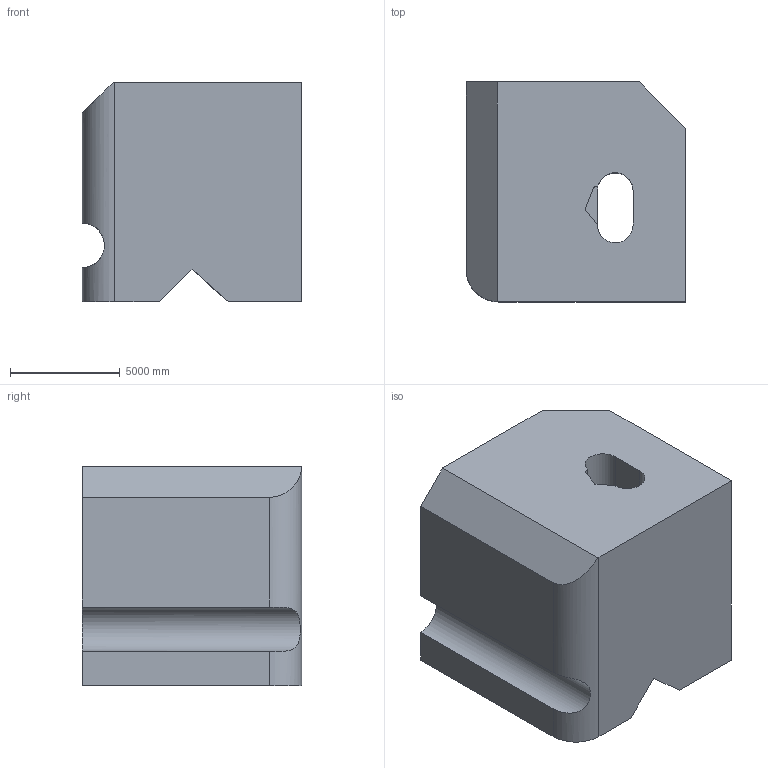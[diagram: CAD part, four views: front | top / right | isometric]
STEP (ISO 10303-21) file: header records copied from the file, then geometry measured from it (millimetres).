
FILE_DESCRIPTION (( 'STEP AP203' ), '1' );
FILE_NAME ('733.STEP', '2022-07-29T12:49:51', ( 'user' ), ( '' ), 'SwSTEP 2.0', 'SolidWorks 2021', '' );
FILE_SCHEMA (( 'CONFIG_CONTROL_DESIGN' ));
Length unit declared in the file: centimetre
Products named in the file (1): 733
Bounding box: 10000 x 10000 x 10000 mm (x, y, z)
Volume: 872504181676 mm3; surface area: 664941795.4 mm2
Topology: 1 solids, 1 shells, 27 faces, 74 edges, 49 vertices
Faces by surface type: plane 23, cylinder 4
Entity records: 1122 total; most frequent: CARTESIAN_POINT 355, ORIENTED_EDGE 148, DIRECTION 134, EDGE_CURVE 74, VECTOR 62, LINE 62, VERTEX_POINT 49, AXIS2_PLACEMENT_3D 36
